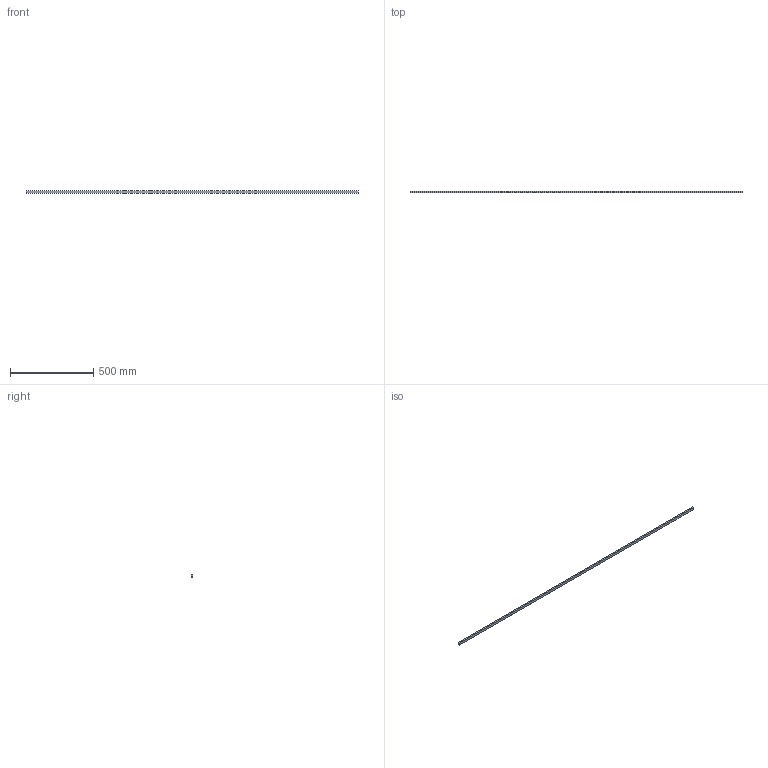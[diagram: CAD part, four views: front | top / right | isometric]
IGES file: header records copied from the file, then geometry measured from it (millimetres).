
Start section: SolidWorks IGES file using analytic representation for surfaces
Bounding box: 2000 x 10.2 x 15 mm (x, y, z)
Surface area: 161106 mm2 (no closed solid volume)
Topology: 0 solids, 0 shells, 12 faces, 48 edges, 48 vertices
Faces by surface type: bspline 12
